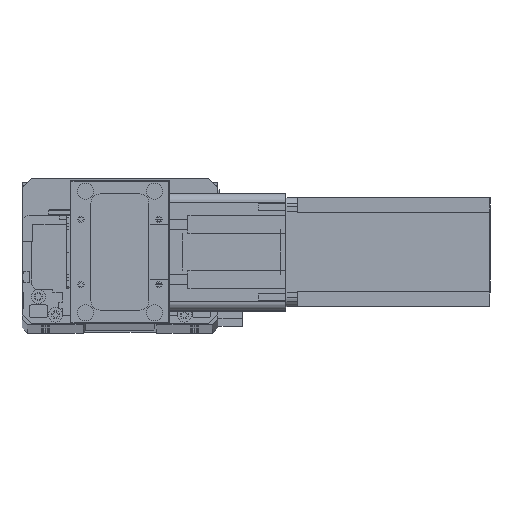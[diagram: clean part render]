
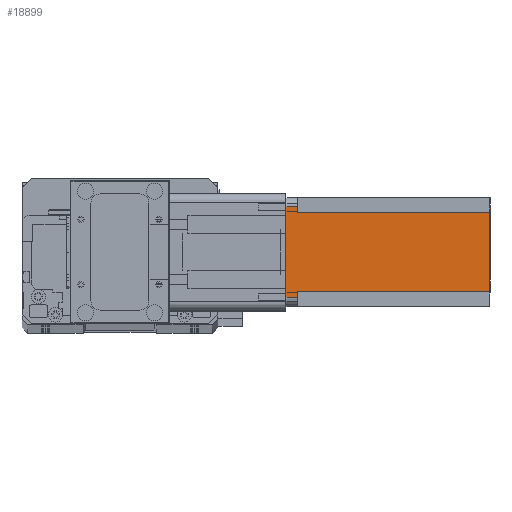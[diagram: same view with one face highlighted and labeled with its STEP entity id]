
A CAD part, top view. The second image highlights one B-rep face of the part: STEP entity #18899.
In plain terms, the highlighted planar face has unit normal (0, 0, 1) as drawn and (0, 1, 0) by its records, which use the part's own axes.
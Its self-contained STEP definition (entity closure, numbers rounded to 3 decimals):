
#328 = CARTESIAN_POINT ( 'NONE',  ( 8., 60., -112.5 ) ) ;
#616 = CARTESIAN_POINT ( 'NONE',  ( 52., 60., -6.5 ) ) ;
#957 = VECTOR ( 'NONE', #3292, 1000. ) ;
#1540 = VERTEX_POINT ( 'NONE', #29786 ) ;
#1620 = VERTEX_POINT ( 'NONE', #27237 ) ;
#2417 = EDGE_CURVE ( 'NONE', #17708, #16195, #22953, .T. ) ;
#2667 = CARTESIAN_POINT ( 'NONE',  ( 0., 60., -112.5 ) ) ;
#2743 = DIRECTION ( 'NONE',  ( 0., 0., -1. ) ) ;
#2804 = DIRECTION ( 'NONE',  ( 0., 0., 1. ) ) ;
#3212 = CARTESIAN_POINT ( 'NONE',  ( 55., 60., 0. ) ) ;
#3292 = DIRECTION ( 'NONE',  ( 0., 0., 1. ) ) ;
#3631 = VECTOR ( 'NONE', #2743, 1000. ) ;
#4350 = CARTESIAN_POINT ( 'NONE',  ( 55., 60., -6.5 ) ) ;
#5268 = CARTESIAN_POINT ( 'NONE',  ( 8., 60., -6.5 ) ) ;
#5711 = CARTESIAN_POINT ( 'NONE',  ( 5., 60., -112.5 ) ) ;
#5796 = CARTESIAN_POINT ( 'NONE',  ( 52., 60., -6.5 ) ) ;
#5831 = ORIENTED_EDGE ( 'NONE', *, *, #20324, .T. ) ;
#6771 = EDGE_CURVE ( 'NONE', #14329, #8196, #19679, .T. ) ;
#7011 = VERTEX_POINT ( 'NONE', #20757 ) ;
#7020 = VECTOR ( 'NONE', #13454, 1000. ) ;
#7484 = DIRECTION ( 'NONE',  ( 0., 1., 0. ) ) ;
#8078 = LINE ( 'NONE', #5711, #957 ) ;
#8196 = VERTEX_POINT ( 'NONE', #4350 ) ;
#8213 = DIRECTION ( 'NONE',  ( 1., 0., 0. ) ) ;
#8474 = CARTESIAN_POINT ( 'NONE',  ( 8., 60., -112.5 ) ) ;
#9114 = EDGE_CURVE ( 'NONE', #11891, #7011, #12612, .T. ) ;
#9208 = ORIENTED_EDGE ( 'NONE', *, *, #2417, .T. ) ;
#10264 = EDGE_CURVE ( 'NONE', #1620, #16195, #16405, .T. ) ;
#11257 = VECTOR ( 'NONE', #30200, 1000. ) ;
#11644 = ORIENTED_EDGE ( 'NONE', *, *, #16212, .T. ) ;
#11891 = VERTEX_POINT ( 'NONE', #3212 ) ;
#12612 = LINE ( 'NONE', #30285, #7020 ) ;
#12922 = EDGE_CURVE ( 'NONE', #1620, #1540, #17387, .T. ) ;
#13363 = CARTESIAN_POINT ( 'NONE',  ( 55., 60., -112.5 ) ) ;
#13454 = DIRECTION ( 'NONE',  ( -1., 0., 0. ) ) ;
#14329 = VERTEX_POINT ( 'NONE', #616 ) ;
#14753 = CARTESIAN_POINT ( 'NONE',  ( 52., 60., -112.5 ) ) ;
#16024 = ORIENTED_EDGE ( 'NONE', *, *, #9114, .F. ) ;
#16034 = EDGE_LOOP ( 'NONE', ( #16024, #11644, #26694, #29823, #9208, #18224, #28476, #5831 ) ) ;
#16195 = VERTEX_POINT ( 'NONE', #8474 ) ;
#16212 = EDGE_CURVE ( 'NONE', #11891, #8196, #28983, .T. ) ;
#16405 = LINE ( 'NONE', #328, #3631 ) ;
#16589 = VECTOR ( 'NONE', #17787, 1000. ) ;
#17387 = LINE ( 'NONE', #5268, #22227 ) ;
#17403 = VECTOR ( 'NONE', #2804, 1000. ) ;
#17708 = VERTEX_POINT ( 'NONE', #29214 ) ;
#17787 = DIRECTION ( 'NONE',  ( -1., 0., 0. ) ) ;
#18224 = ORIENTED_EDGE ( 'NONE', *, *, #10264, .F. ) ;
#18425 = CARTESIAN_POINT ( 'NONE',  ( 0., 60., -112.5 ) ) ;
#18899 = ADVANCED_FACE ( 'NONE', ( #22015 ), #29023, .T. ) ;
#19679 = LINE ( 'NONE', #5796, #25324 ) ;
#20324 = EDGE_CURVE ( 'NONE', #1540, #7011, #8078, .T. ) ;
#20647 = AXIS2_PLACEMENT_3D ( 'NONE', #2667, #7484, #24279 ) ;
#20757 = CARTESIAN_POINT ( 'NONE',  ( 5., 60., 0. ) ) ;
#22015 = FACE_OUTER_BOUND ( 'NONE', #16034, .T. ) ;
#22034 = DIRECTION ( 'NONE',  ( -1., 0., 0. ) ) ;
#22227 = VECTOR ( 'NONE', #22034, 1000. ) ;
#22953 = LINE ( 'NONE', #18425, #16589 ) ;
#24279 = DIRECTION ( 'NONE',  ( 0., 0., 1. ) ) ;
#24528 = LINE ( 'NONE', #14753, #17403 ) ;
#25324 = VECTOR ( 'NONE', #8213, 1000. ) ;
#26694 = ORIENTED_EDGE ( 'NONE', *, *, #6771, .F. ) ;
#27237 = CARTESIAN_POINT ( 'NONE',  ( 8., 60., -6.5 ) ) ;
#28476 = ORIENTED_EDGE ( 'NONE', *, *, #12922, .T. ) ;
#28983 = LINE ( 'NONE', #13363, #11257 ) ;
#29023 = PLANE ( 'NONE',  #20647 ) ;
#29214 = CARTESIAN_POINT ( 'NONE',  ( 52., 60., -112.5 ) ) ;
#29786 = CARTESIAN_POINT ( 'NONE',  ( 5., 60., -6.5 ) ) ;
#29823 = ORIENTED_EDGE ( 'NONE', *, *, #30134, .F. ) ;
#30134 = EDGE_CURVE ( 'NONE', #17708, #14329, #24528, .T. ) ;
#30200 = DIRECTION ( 'NONE',  ( 0., 0., -1. ) ) ;
#30285 = CARTESIAN_POINT ( 'NONE',  ( 0., 60., 0. ) ) ;
